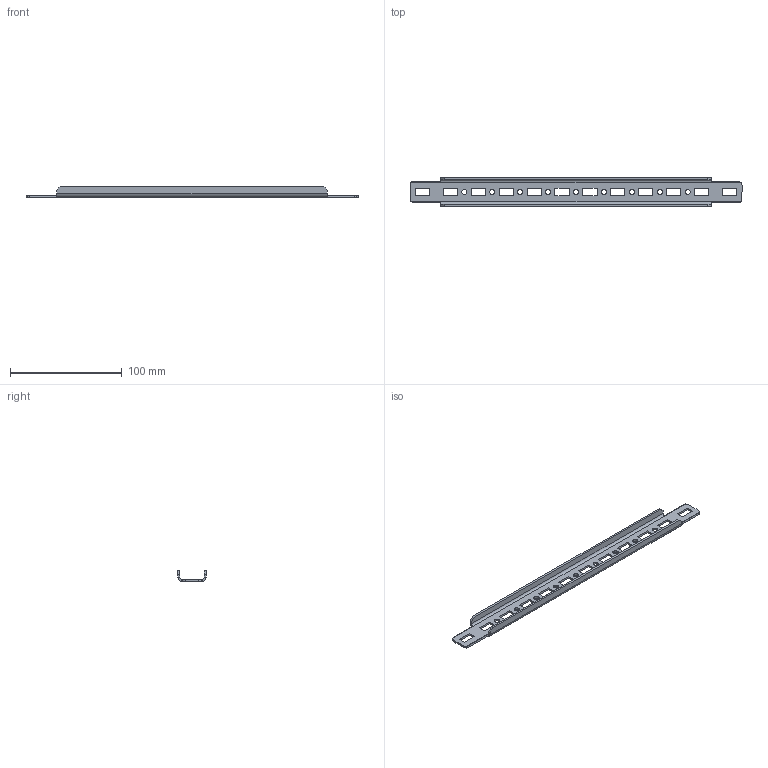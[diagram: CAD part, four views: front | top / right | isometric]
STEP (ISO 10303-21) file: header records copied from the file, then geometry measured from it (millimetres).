
FILE_DESCRIPTION (( 'STEP AP203' ), '1' );
FILE_NAME ('15671.step', '2013-04-17T10:16:25', ( '' ), ( '' ), 'SwSTEP 2.0', 'SolidWorks 2010', '' );
FILE_SCHEMA (( 'CONFIG_CONTROL_DESIGN' ));
Length unit declared in the file: inch
Products named in the file (2): 87798498; 15671
Assembly tree (1 placements, depth 2):
  15671
    87798498
Bounding box: 297.23 x 25.43 x 9.51 mm (x, y, z)
Volume: 16741.2 mm3; surface area: 20588.1 mm2
Topology: 1 solids, 1 shells, 104 faces, 290 edges, 188 vertices
Faces by surface type: plane 74, cylinder 26, bspline 4
Entity records: 3634 total; most frequent: CARTESIAN_POINT 682, ORIENTED_EDGE 580, DIRECTION 534, EDGE_CURVE 290, LINE 222, VECTOR 222, VERTEX_POINT 188, AXIS2_PLACEMENT_3D 156
